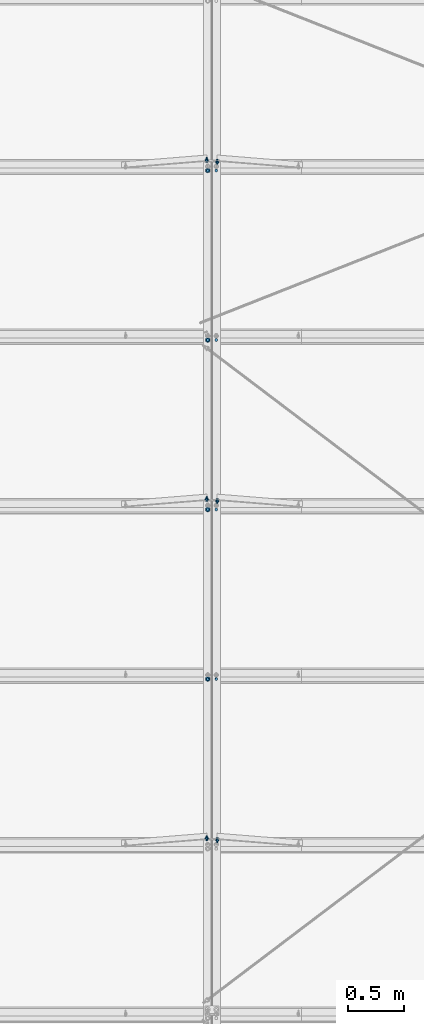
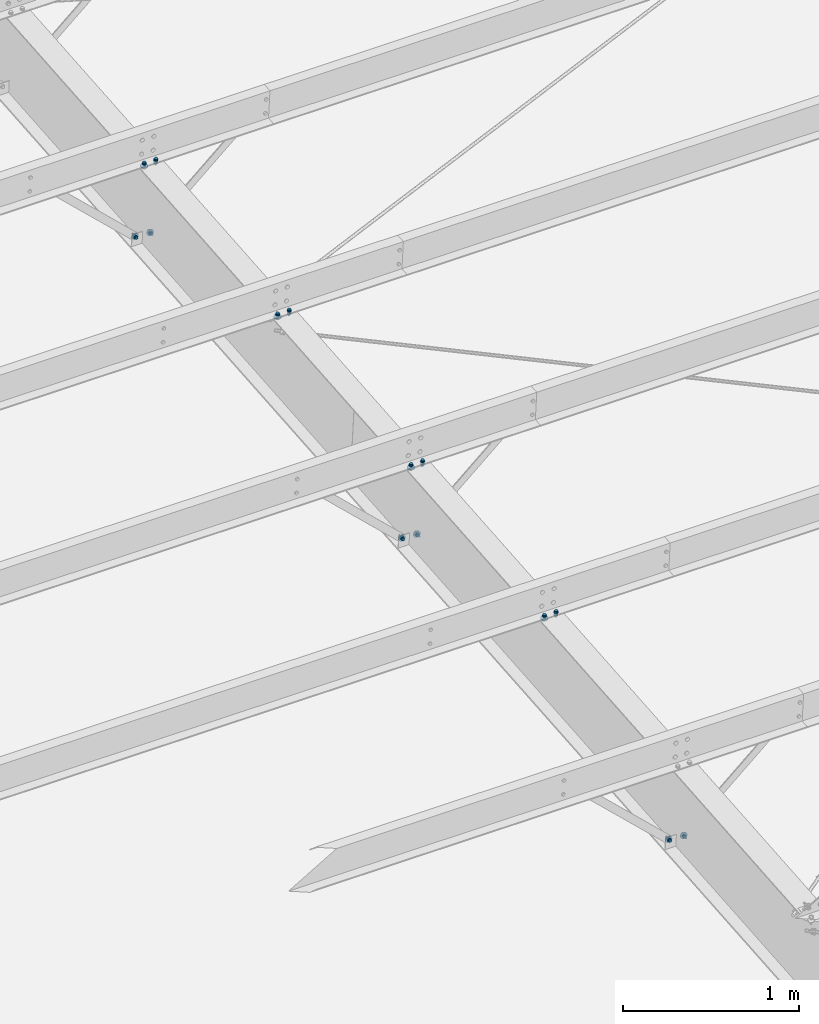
# One storey, part 141 of 185: 20 mechanical fasteners, 11 elements without a shape of their own.
"""IFC2X3 building model written with IfcOpenShell, lengths in millimetres."""

from ifc_helpers import new_model, si_unit, frame, origin_with_axes, origin_2d_with_axis, place, context, subcontext, project, spatial, polyline, circle, outline, extrude, source, transform, mapped, material, type_object, element, aggregate, save


model = new_model("IFC2X3")

# Units and contexts
model_context = context("Model", 3, precision=1e-05, world=origin_with_axes())
body_context = subcontext(model_context, "Body", "Model", "MODEL_VIEW")
ifc_project = project(units=[si_unit("LENGTHUNIT", "METRE", prefix="MILLI"), si_unit("AREAUNIT", "SQUARE_METRE"), si_unit("VOLUMEUNIT", "CUBIC_METRE"), si_unit("MASSUNIT", "GRAM", prefix="KILO"), si_unit("TIMEUNIT", "SECOND"), si_unit("PLANEANGLEUNIT", "RADIAN"), si_unit("SOLIDANGLEUNIT", "STERADIAN"), si_unit("THERMODYNAMICTEMPERATUREUNIT", "DEGREE_CELSIUS"), si_unit("LUMINOUSINTENSITYUNIT", "LUMEN")], contexts=[model_context])

# Site, building, storey
site_placement = place(None, origin_with_axes())
site = spatial("IfcSite", under=ifc_project, at=site_placement, Name="Undefined", CompositionType="ELEMENT")
building_placement = place(site_placement, origin_with_axes())
building = spatial("IfcBuilding", under=site, at=building_placement, Name="Undefined", CompositionType="ELEMENT")
storey_placement = place(building_placement, origin_with_axes())
storey = spatial("IfcBuildingStorey", under=building, at=storey_placement, Name="Undefined", CompositionType="ELEMENT", Elevation=0.0)

# Assembly, mechanical fastener
assembly_1_placement = place(storey_placement, origin_with_axes())
assembly_1 = element("IfcElementAssembly", 1, at=assembly_1_placement, inside=storey, Name="Steel Assembly", AssemblyPlace="NOTDEFINED", PredefinedType="RIGID_FRAME")
ifc_material_1 = material(Name="Undefined")
discrete_accessory_type = type_object("IfcDiscreteAccessoryType", Name="Bolt assembly")
shared_shape_1 = source(origin_with_axes(), body_context, "Body", "SweptSolid", [
    extrude(circle(Radius=7.14374971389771, at=origin_2d_with_axis()), frame((0.0, -1.59000001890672, 0.0), z_axis=(0.0, 1.0, 0.0), x_axis=(1.0, 0.0, 0.0)), (0.0, 0.0, 1.0), 1.7),
    extrude(outline(polyline([(10.9985221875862, 0.0), (5.4992610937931, 9.52499961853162), (-5.4992610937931, 9.52499961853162), (-10.9985221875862, 0.0), (-5.4992610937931, -9.52499961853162), (5.4992610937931, -9.52499961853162), (10.9985221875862, 0.0)])), frame((0.0, -15.0837496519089, 0.0), z_axis=(0.0, 1.0, 0.0), x_axis=(1.0, 0.0, 0.0)), (0.0, 0.0, 1.0), 9.5),
    extrude(circle(Radius=6.34999990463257, at=origin_2d_with_axis()), frame((0.0, -5.5587500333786, 0.0), z_axis=(0.0, 1.0, 0.0), x_axis=(1.0, 0.0, 0.0)), (0.0, 0.0, 1.0), 38.1),
    extrude(circle(Radius=13.4937496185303, at=origin_2d_with_axis()), frame((0.0, -5.5587500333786, 0.0), z_axis=(0.0, 1.0, 0.0), x_axis=(1.0, 0.0, 0.0)), (0.0, 0.0, 1.0), 4.0),
    extrude(circle(Radius=22.2250003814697, at=origin_2d_with_axis()), frame((0.0, 0.0, 0.0), z_axis=(0.0, 1.0, 0.0), x_axis=(1.0, 0.0, 0.0)), (0.0, 0.0, 1.0), 7.9),
    extrude(outline(polyline([(12.8316099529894, 0.0), (6.4158049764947, 11.1125001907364), (-6.4158049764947, 11.1125001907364), (-12.8316099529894, 0.0), (-6.4158049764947, -11.1125001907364), (6.4158049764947, -11.1125001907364), (12.8316099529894, 0.0)])), frame((0.0, 7.93750000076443, 0.0), z_axis=(0.0, 1.0, 0.0), x_axis=(1.0, 0.0, 0.0)), (0.0, 0.0, 1.0), 12.3),
])
mechanical_fastener_1_placement = place(assembly_1_placement, frame((30145.8744956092, 8167.66653030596, 6014.27804869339), z_axis=(0.697745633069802, 0.0594892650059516, -0.713871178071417), x_axis=(0.716345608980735, -0.0579446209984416, 0.695335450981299)))
mechanical_fastener_1 = element("IfcMechanicalFastener", 2, at=mechanical_fastener_1_placement, type_object=discrete_accessory_type, material=ifc_material_1, Name="Bolt assembly", NominalDiameter=12.6999998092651, NominalLength=38.0999984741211, context=body_context, shape_type="MappedRepresentation", body=[
    mapped(shared_shape_1, transform((0.0, 0.0, 0.0))),
])
aggregate(assembly_1, [mechanical_fastener_1])

assembly_2_placement = place(storey_placement, origin_with_axes())
assembly_2 = element("IfcElementAssembly", 3, at=assembly_2_placement, inside=storey, Name="Steel Assembly", AssemblyPlace="NOTDEFINED", PredefinedType="RIGID_FRAME")
mechanical_fastener_2_placement = place(assembly_2_placement, frame((30145.8744956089, 11205.1380014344, 6267.4006712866), z_axis=(0.697745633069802, 0.0594892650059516, -0.713871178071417), x_axis=(0.716345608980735, -0.0579446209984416, 0.695335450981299)))
mechanical_fastener_2 = element("IfcMechanicalFastener", 4, at=mechanical_fastener_2_placement, type_object=discrete_accessory_type, material=ifc_material_1, Name="Bolt assembly", NominalDiameter=12.6999998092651, NominalLength=38.0999984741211, context=body_context, shape_type="MappedRepresentation", body=[
    mapped(shared_shape_1, transform((0.0, 0.0, 0.0))),
])
aggregate(assembly_2, [mechanical_fastener_2])

assembly_3_placement = place(storey_placement, origin_with_axes())
assembly_3 = element("IfcElementAssembly", 5, at=assembly_3_placement, inside=storey, Name="Steel Assembly", AssemblyPlace="NOTDEFINED", PredefinedType="RIGID_FRAME")
mechanical_fastener_3_placement = place(assembly_3_placement, frame((30145.8744956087, 14242.609472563, 6520.52329387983), z_axis=(0.697745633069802, 0.0594892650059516, -0.713871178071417), x_axis=(0.716345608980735, -0.0579446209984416, 0.695335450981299)))
mechanical_fastener_3 = element("IfcMechanicalFastener", 6, at=mechanical_fastener_3_placement, type_object=discrete_accessory_type, material=ifc_material_1, Name="Bolt assembly", NominalDiameter=12.6999998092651, NominalLength=38.0999984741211, context=body_context, shape_type="MappedRepresentation", body=[
    mapped(shared_shape_1, transform((0.0, 0.0, 0.0))),
])
aggregate(assembly_3, [mechanical_fastener_3])

assembly_4_placement = place(storey_placement, origin_with_axes())
assembly_4 = element("IfcElementAssembly", 7, at=assembly_4_placement, inside=storey, Name="Steel Assembly", AssemblyPlace="NOTDEFINED", PredefinedType="RIGID_FRAME")
shared_shape_2 = source(origin_with_axes(), body_context, "Body", "SweptSolid", [
    extrude(circle(Radius=7.14374971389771, at=origin_2d_with_axis()), frame((0.0, 0.0, 0.0), z_axis=(0.0, 1.0, 0.0), x_axis=(1.0, 0.0, 0.0)), (0.0, 0.0, 1.0), 1.7),
    extrude(outline(polyline([(10.9985221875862, 0.0), (5.4992610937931, 9.52499961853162), (-5.4992610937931, 9.52499961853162), (-10.9985221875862, 0.0), (-5.4992610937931, -9.52499961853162), (5.4992610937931, -9.52499961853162), (10.9985221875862, 0.0)])), frame((0.0, -13.4937496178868, 0.0), z_axis=(0.0, 1.0, 0.0), x_axis=(1.0, 0.0, 0.0)), (0.0, 0.0, 1.0), 9.5),
    extrude(circle(Radius=6.34999990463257, at=origin_2d_with_axis()), frame((0.0, -3.96874999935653, 0.0), z_axis=(0.0, 1.0, 0.0), x_axis=(1.0, 0.0, 0.0)), (0.0, 0.0, 1.0), 38.1),
    extrude(circle(Radius=13.4937496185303, at=origin_2d_with_axis()), frame((0.0, -3.96874999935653, 0.0), z_axis=(0.0, 1.0, 0.0), x_axis=(1.0, 0.0, 0.0)), (0.0, 0.0, 1.0), 4.0),
    extrude(circle(Radius=22.2250003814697, at=origin_2d_with_axis()), frame((0.0, 1.5900000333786, 0.0), z_axis=(0.0, 1.0, 0.0), x_axis=(1.0, 0.0, 0.0)), (0.0, 0.0, 1.0), 7.9),
    extrude(outline(polyline([(12.8316099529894, 0.0), (6.4158049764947, 11.1125001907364), (-6.4158049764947, 11.1125001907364), (-12.8316099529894, 0.0), (-6.4158049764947, -11.1125001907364), (6.4158049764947, -11.1125001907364), (12.8316099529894, 0.0)])), frame((0.0, 9.5275000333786, 0.0), z_axis=(0.0, 1.0, 0.0), x_axis=(1.0, 0.0, 0.0)), (0.0, 0.0, 1.0), 12.3),
])
mechanical_fastener_4_placement = place(assembly_4_placement, frame((30052.1255043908, 8167.66653030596, 6014.27804869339), z_axis=(-0.697745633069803, 0.0594892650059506, -0.713871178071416), x_axis=(-0.716345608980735, -0.0579446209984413, 0.6953354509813)))
mechanical_fastener_4 = element("IfcMechanicalFastener", 8, at=mechanical_fastener_4_placement, type_object=discrete_accessory_type, material=ifc_material_1, Name="Bolt assembly", NominalDiameter=12.6999998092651, NominalLength=38.0999984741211, context=body_context, shape_type="MappedRepresentation", body=[
    mapped(shared_shape_2, transform((0.0, 0.0, 0.0))),
])
aggregate(assembly_4, [mechanical_fastener_4])

assembly_5_placement = place(storey_placement, origin_with_axes())
assembly_5 = element("IfcElementAssembly", 9, at=assembly_5_placement, inside=storey, Name="Steel Assembly", AssemblyPlace="NOTDEFINED", PredefinedType="RIGID_FRAME")
mechanical_fastener_5_placement = place(assembly_5_placement, frame((30052.1255043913, 14242.609472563, 6520.52329387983), z_axis=(-0.697745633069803, 0.0594892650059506, -0.713871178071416), x_axis=(-0.716345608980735, -0.0579446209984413, 0.6953354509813)))
mechanical_fastener_5 = element("IfcMechanicalFastener", 10, at=mechanical_fastener_5_placement, type_object=discrete_accessory_type, material=ifc_material_1, Name="Bolt assembly", NominalDiameter=12.6999998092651, NominalLength=38.0999984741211, context=body_context, shape_type="MappedRepresentation", body=[
    mapped(shared_shape_2, transform((0.0, 0.0, 0.0))),
])
aggregate(assembly_5, [mechanical_fastener_5])

assembly_6_placement = place(storey_placement, origin_with_axes())
assembly_6 = element("IfcElementAssembly", 11, at=assembly_6_placement, inside=storey, Name="Steel Assembly", AssemblyPlace="NOTDEFINED", PredefinedType="RIGID_FRAME")
mechanical_fastener_6_placement = place(assembly_6_placement, frame((30052.1255043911, 11205.1380014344, 6267.4006712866), z_axis=(-0.697745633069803, 0.0594892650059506, -0.713871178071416), x_axis=(-0.716345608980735, -0.0579446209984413, 0.6953354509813)))
mechanical_fastener_6 = element("IfcMechanicalFastener", 12, at=mechanical_fastener_6_placement, type_object=discrete_accessory_type, material=ifc_material_1, Name="Bolt assembly", NominalDiameter=12.6999998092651, NominalLength=38.0999984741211, context=body_context, shape_type="MappedRepresentation", body=[
    mapped(shared_shape_2, transform((0.0, 0.0, 0.0))),
])
aggregate(assembly_6, [mechanical_fastener_6])

# Assembly, mechanical fasteners
assembly_7_placement = place(storey_placement, origin_with_axes())
assembly_7 = element("IfcElementAssembly", 13, at=assembly_7_placement, inside=storey, Name="Steel Assembly", AssemblyPlace="NOTDEFINED", PredefinedType="RIGID_FRAME")
ifc_material_2 = material(Name="7990")
shared_shape_3 = source(origin_with_axes(), body_context, "Body", "SweptSolid", [
    extrude(circle(Radius=7.14374971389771, at=origin_2d_with_axis()), frame((0.0, -3.41600000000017, 0.0), z_axis=(0.0, 1.0, 0.0), x_axis=(1.0, 0.0, 0.0)), (0.0, 0.0, 1.0), 3.5),
    extrude(circle(Radius=11.4299998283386, at=origin_2d_with_axis()), frame((0.0, 0.0, 0.0), z_axis=(0.0, 1.0, 0.0), x_axis=(1.0, 0.0, 0.0)), (0.0, 0.0, 1.0), 4.2),
    extrude(outline(polyline([(12.171698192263, 0.0), (6.08584909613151, 10.5409998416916), (-6.08584909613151, 10.5409998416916), (-12.171698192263, 0.0), (-6.08584909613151, -10.5409998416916), (6.08584909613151, -10.5409998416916), (12.171698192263, 0.0)])), frame((0.0, 4.1909999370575, 0.0), z_axis=(0.0, 1.0, 0.0), x_axis=(1.0, 0.0, 0.0)), (0.0, 0.0, 1.0), 8.4),
])
mechanical_fastener_7_placement = place(assembly_7_placement, frame((30052.84185, 8167.72447492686, 6013.58271324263), z_axis=(0.921635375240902, 0.0322263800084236, -0.386716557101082), x_axis=(-0.388056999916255, 0.0765376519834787, -0.9184518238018)))
mechanical_fastener_7 = element("IfcMechanicalFastener", 14, at=mechanical_fastener_7_placement, type_object=discrete_accessory_type, material=ifc_material_2, Name="Bolt assembly", NominalDiameter=12.6999998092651, NominalLength=38.0999984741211, context=body_context, shape_type="MappedRepresentation", body=[
    mapped(shared_shape_3, transform((0.0, 0.0, 0.0))),
])
mechanical_fastener_8_placement = place(assembly_7_placement, frame((30052.84185, 11205.1959460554, 6266.70533583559), z_axis=(0.921635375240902, 0.0322263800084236, -0.386716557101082), x_axis=(-0.388056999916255, 0.0765376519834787, -0.9184518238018)))
mechanical_fastener_8 = element("IfcMechanicalFastener", 15, at=mechanical_fastener_8_placement, type_object=discrete_accessory_type, material=ifc_material_2, Name="Bolt assembly", NominalDiameter=12.6999998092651, NominalLength=38.0999984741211, context=body_context, shape_type="MappedRepresentation", body=[
    mapped(shared_shape_3, transform((0.0, 0.0, 0.0))),
])
mechanical_fastener_9_placement = place(assembly_7_placement, frame((30052.84185, 14242.667417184, 6519.82795842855), z_axis=(0.921635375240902, 0.0322263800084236, -0.386716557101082), x_axis=(-0.388056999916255, 0.0765376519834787, -0.9184518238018)))
mechanical_fastener_9 = element("IfcMechanicalFastener", 16, at=mechanical_fastener_9_placement, type_object=discrete_accessory_type, material=ifc_material_2, Name="Bolt assembly", NominalDiameter=12.6999998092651, NominalLength=38.0999984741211, context=body_context, shape_type="MappedRepresentation", body=[
    mapped(shared_shape_3, transform((0.0, 0.0, 0.0))),
])
shared_shape_4 = source(origin_with_axes(), body_context, "Body", "SweptSolid", [
    extrude(circle(Radius=7.14374971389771, at=origin_2d_with_axis()), frame((0.0, 0.0, 0.0), z_axis=(0.0, 1.0, 0.0), x_axis=(1.0, 0.0, 0.0)), (0.0, 0.0, 1.0), 3.5),
    extrude(circle(Radius=11.4299998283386, at=origin_2d_with_axis()), frame((0.0, 3.41600000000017, 0.0), z_axis=(0.0, 1.0, 0.0), x_axis=(1.0, 0.0, 0.0)), (0.0, 0.0, 1.0), 4.2),
    extrude(outline(polyline([(12.171698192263, 0.0), (6.08584909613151, 10.5409998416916), (-6.08584909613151, 10.5409998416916), (-12.171698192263, 0.0), (-6.08584909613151, -10.5409998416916), (6.08584909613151, -10.5409998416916), (12.171698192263, 0.0)])), frame((0.0, 7.60699993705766, 0.0), z_axis=(0.0, 1.0, 0.0), x_axis=(1.0, 0.0, 0.0)), (0.0, 0.0, 1.0), 8.4),
])
mechanical_fastener_10_placement = place(assembly_7_placement, frame((30145.15815, 8167.72447492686, 6013.58271324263), z_axis=(-0.921635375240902, 0.0322263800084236, -0.386716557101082), x_axis=(0.388056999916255, 0.0765376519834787, -0.9184518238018)))
mechanical_fastener_10 = element("IfcMechanicalFastener", 17, at=mechanical_fastener_10_placement, type_object=discrete_accessory_type, material=ifc_material_2, Name="Bolt assembly", NominalDiameter=12.6999998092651, NominalLength=38.0999984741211, context=body_context, shape_type="MappedRepresentation", body=[
    mapped(shared_shape_4, transform((0.0, 0.0, 0.0))),
])
mechanical_fastener_11_placement = place(assembly_7_placement, frame((30145.15815, 11205.1959460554, 6266.70533583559), z_axis=(-0.921635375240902, 0.0322263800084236, -0.386716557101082), x_axis=(0.388056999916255, 0.0765376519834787, -0.9184518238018)))
mechanical_fastener_11 = element("IfcMechanicalFastener", 18, at=mechanical_fastener_11_placement, type_object=discrete_accessory_type, material=ifc_material_2, Name="Bolt assembly", NominalDiameter=12.6999998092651, NominalLength=38.0999984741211, context=body_context, shape_type="MappedRepresentation", body=[
    mapped(shared_shape_4, transform((0.0, 0.0, 0.0))),
])
mechanical_fastener_12_placement = place(assembly_7_placement, frame((30145.15815, 14242.667417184, 6519.82795842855), z_axis=(-0.921635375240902, 0.0322263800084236, -0.386716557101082), x_axis=(0.388056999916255, 0.0765376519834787, -0.9184518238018)))
mechanical_fastener_12 = element("IfcMechanicalFastener", 19, at=mechanical_fastener_12_placement, type_object=discrete_accessory_type, material=ifc_material_2, Name="Bolt assembly", NominalDiameter=12.6999998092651, NominalLength=38.0999984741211, context=body_context, shape_type="MappedRepresentation", body=[
    mapped(shared_shape_4, transform((0.0, 0.0, 0.0))),
])
aggregate(assembly_7, [mechanical_fastener_10, mechanical_fastener_7, mechanical_fastener_11, mechanical_fastener_8, mechanical_fastener_12, mechanical_fastener_9])

# Assembly, mechanical fastener
assembly_8_placement = place(storey_placement, origin_with_axes())
assembly_8 = element("IfcElementAssembly", 20, at=assembly_8_placement, inside=storey, Name="Steel Assembly", AssemblyPlace="NOTDEFINED", PredefinedType="RIGID_FRAME")
shared_shape_5 = source(origin_with_axes(), body_context, "Body", "SweptSolid", [
    extrude(circle(Radius=7.14374971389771, at=origin_2d_with_axis()), frame((0.0, -0.0238014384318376, 0.0), z_axis=(0.0, 1.0, 0.0), x_axis=(1.0, 0.0, 0.0)), (0.0, 0.0, 1.0), 8.0),
    extrude(circle(Radius=7.14374971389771, at=origin_2d_with_axis()), frame((0.0, -3.08000006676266, 0.0), z_axis=(0.0, 1.0, 0.0), x_axis=(1.0, 0.0, 0.0)), (0.0, 0.0, 1.0), 3.2),
    extrude(circle(Radius=7.14374971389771, at=origin_2d_with_axis()), frame((0.0, -3.08000006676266, 0.0), z_axis=(0.0, 1.0, 0.0), x_axis=(1.0, 0.0, 0.0)), (0.0, 0.0, 1.0), 3.2),
    extrude(outline(polyline([(10.9985221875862, 0.0), (5.4992610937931, 9.52499961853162), (-5.4992610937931, 9.52499961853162), (-10.9985221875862, 0.0), (-5.4992610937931, -9.52499961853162), (5.4992610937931, -9.52499961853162), (10.9985221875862, 0.0)])), frame((0.0, -16.6737496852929, 0.0), z_axis=(0.0, 1.0, 0.0), x_axis=(1.0, 0.0, 0.0)), (0.0, 0.0, 1.0), 9.5),
    extrude(circle(Radius=6.34999990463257, at=origin_2d_with_axis()), frame((0.0, -7.14875006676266, 0.0), z_axis=(0.0, 1.0, 0.0), x_axis=(1.0, 0.0, 0.0)), (0.0, 0.0, 1.0), 38.1),
    extrude(circle(Radius=13.4937496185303, at=origin_2d_with_axis()), frame((0.0, -7.14875006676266, 0.0), z_axis=(0.0, 1.0, 0.0), x_axis=(1.0, 0.0, 0.0)), (0.0, 0.0, 1.0), 4.0),
    extrude(circle(Radius=22.2250003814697, at=origin_2d_with_axis()), frame((0.0, 7.95019856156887, 0.0), z_axis=(0.0, 1.0, 0.0), x_axis=(1.0, 0.0, 0.0)), (0.0, 0.0, 1.0), 7.9),
    extrude(outline(polyline([(12.8316099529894, 0.0), (6.4158049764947, 11.1125001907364), (-6.4158049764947, 11.1125001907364), (-12.8316099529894, 0.0), (-6.4158049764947, -11.1125001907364), (6.4158049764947, -11.1125001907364), (12.8316099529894, 0.0)])), frame((0.0, 15.8876985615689, 0.0), z_axis=(0.0, 1.0, 0.0), x_axis=(1.0, 0.0, 0.0)), (0.0, 0.0, 1.0), 12.3),
])
mechanical_fastener_13_placement = place(assembly_8_placement, frame((30060.9, 9602.21678319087, 6692.28039869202), z_axis=(1.0, 0.0, 0.0), x_axis=(0.0, -0.996545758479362, -0.0830454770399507)))
mechanical_fastener_13 = element("IfcMechanicalFastener", 21, at=mechanical_fastener_13_placement, type_object=discrete_accessory_type, material=ifc_material_1, Name="Bolt assembly", NominalDiameter=12.6999998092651, NominalLength=38.0999984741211, context=body_context, shape_type="MappedRepresentation", body=[
    mapped(shared_shape_5, transform((0.0, 0.0, 0.0))),
])

assembly_9_placement = place(storey_placement, origin_with_axes())
assembly_9 = element("IfcElementAssembly", 22, at=assembly_9_placement, inside=storey, Name="Steel Assembly", AssemblyPlace="NOTDEFINED", PredefinedType="RIGID_FRAME")
mechanical_fastener_14_placement = place(assembly_9_placement, frame((30060.9, 11120.9525187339, 6818.84171024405), z_axis=(1.0, 0.0, 0.0), x_axis=(0.0, -0.996545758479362, -0.0830454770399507)))
mechanical_fastener_14 = element("IfcMechanicalFastener", 23, at=mechanical_fastener_14_placement, type_object=discrete_accessory_type, material=ifc_material_1, Name="Bolt assembly", NominalDiameter=12.6999998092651, NominalLength=38.0999984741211, context=body_context, shape_type="MappedRepresentation", body=[
    mapped(shared_shape_5, transform((0.0, 0.0, 0.0))),
])

assembly_10_placement = place(storey_placement, origin_with_axes())
assembly_10 = element("IfcElementAssembly", 24, at=assembly_10_placement, inside=storey, Name="Steel Assembly", AssemblyPlace="NOTDEFINED", PredefinedType="RIGID_FRAME")
mechanical_fastener_15_placement = place(assembly_10_placement, frame((30060.9, 12639.6882542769, 6945.40302179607), z_axis=(1.0, 0.0, 0.0), x_axis=(0.0, -0.996545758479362, -0.0830454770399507)))
mechanical_fastener_15 = element("IfcMechanicalFastener", 25, at=mechanical_fastener_15_placement, type_object=discrete_accessory_type, material=ifc_material_1, Name="Bolt assembly", NominalDiameter=12.6999998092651, NominalLength=38.0999984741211, context=body_context, shape_type="MappedRepresentation", body=[
    mapped(shared_shape_5, transform((0.0, 0.0, 0.0))),
])

assembly_11_placement = place(storey_placement, origin_with_axes())
assembly_11 = element("IfcElementAssembly", 26, at=assembly_11_placement, inside=storey, Name="Steel Assembly", AssemblyPlace="NOTDEFINED", PredefinedType="RIGID_FRAME")
mechanical_fastener_16_placement = place(assembly_11_placement, frame((30060.9, 14158.4239898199, 7071.96433334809), z_axis=(1.0, 0.0, 0.0), x_axis=(0.0, -0.996545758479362, -0.0830454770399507)))
mechanical_fastener_16 = element("IfcMechanicalFastener", 27, at=mechanical_fastener_16_placement, type_object=discrete_accessory_type, material=ifc_material_1, Name="Bolt assembly", NominalDiameter=12.6999998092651, NominalLength=38.0999984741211, context=body_context, shape_type="MappedRepresentation", body=[
    mapped(shared_shape_5, transform((0.0, 0.0, 0.0))),
])

# Mechanical fastener
shared_shape_6 = source(origin_with_axes(), body_context, "Body", "SweptSolid", [
    extrude(circle(Radius=7.14374971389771, at=origin_2d_with_axis()), frame((0.0, -0.0238014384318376, 0.0), z_axis=(0.0, 1.0, 0.0), x_axis=(1.0, 0.0, 0.0)), (0.0, 0.0, 1.0), 8.0),
    extrude(circle(Radius=7.14374971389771, at=origin_2d_with_axis()), frame((0.0, -3.08000006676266, 0.0), z_axis=(0.0, 1.0, 0.0), x_axis=(1.0, 0.0, 0.0)), (0.0, 0.0, 1.0), 3.2),
    extrude(circle(Radius=7.14374971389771, at=origin_2d_with_axis()), frame((0.0, -3.08000006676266, 0.0), z_axis=(0.0, 1.0, 0.0), x_axis=(1.0, 0.0, 0.0)), (0.0, 0.0, 1.0), 3.2),
    extrude(outline(polyline([(10.9985221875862, 0.0), (5.4992610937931, 9.52499961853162), (-5.4992610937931, 9.52499961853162), (-10.9985221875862, 0.0), (-5.4992610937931, -9.52499961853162), (5.4992610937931, -9.52499961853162), (10.9985221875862, 0.0)])), frame((0.0, -16.6737496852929, 0.0), z_axis=(0.0, 1.0, 0.0), x_axis=(1.0, 0.0, 0.0)), (0.0, 0.0, 1.0), 9.5),
    extrude(circle(Radius=6.34999990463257, at=origin_2d_with_axis()), frame((0.0, -7.14875006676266, 0.0), z_axis=(0.0, 1.0, 0.0), x_axis=(1.0, 0.0, 0.0)), (0.0, 0.0, 1.0), 38.1),
    extrude(circle(Radius=13.4937496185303, at=origin_2d_with_axis()), frame((0.0, -7.14875006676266, 0.0), z_axis=(0.0, 1.0, 0.0), x_axis=(1.0, 0.0, 0.0)), (0.0, 0.0, 1.0), 4.0),
    extrude(outline(polyline([(12.8316099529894, 0.0), (6.4158049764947, 11.1125001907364), (-6.4158049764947, 11.1125001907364), (-12.8316099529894, 0.0), (-6.4158049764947, -11.1125001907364), (6.4158049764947, -11.1125001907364), (12.8316099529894, 0.0)])), frame((0.0, 7.95019856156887, 0.0), z_axis=(0.0, 1.0, 0.0), x_axis=(1.0, 0.0, 0.0)), (0.0, 0.0, 1.0), 12.3),
])
mechanical_fastener_17_placement = place(assembly_8_placement, frame((30137.1, 9602.21678319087, 6692.28039869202), z_axis=(1.0, 0.0, 0.0), x_axis=(0.0, -0.996545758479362, -0.0830454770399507)))
mechanical_fastener_17 = element("IfcMechanicalFastener", 28, at=mechanical_fastener_17_placement, type_object=discrete_accessory_type, material=ifc_material_1, Name="Bolt assembly", NominalDiameter=12.6999998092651, NominalLength=38.0999984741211, context=body_context, shape_type="MappedRepresentation", body=[
    mapped(shared_shape_6, transform((0.0, 0.0, 0.0))),
])

aggregate(assembly_8, [mechanical_fastener_13, mechanical_fastener_17])

mechanical_fastener_18_placement = place(assembly_9_placement, frame((30137.1, 11120.9525187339, 6818.84171024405), z_axis=(1.0, 0.0, 0.0), x_axis=(0.0, -0.996545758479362, -0.0830454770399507)))
mechanical_fastener_18 = element("IfcMechanicalFastener", 29, at=mechanical_fastener_18_placement, type_object=discrete_accessory_type, material=ifc_material_1, Name="Bolt assembly", NominalDiameter=12.6999998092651, NominalLength=38.0999984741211, context=body_context, shape_type="MappedRepresentation", body=[
    mapped(shared_shape_6, transform((0.0, 0.0, 0.0))),
])

aggregate(assembly_9, [mechanical_fastener_14, mechanical_fastener_18])

mechanical_fastener_19_placement = place(assembly_10_placement, frame((30137.1, 12639.6882542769, 6945.40302179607), z_axis=(1.0, 0.0, 0.0), x_axis=(0.0, -0.996545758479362, -0.0830454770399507)))
mechanical_fastener_19 = element("IfcMechanicalFastener", 30, at=mechanical_fastener_19_placement, type_object=discrete_accessory_type, material=ifc_material_1, Name="Bolt assembly", NominalDiameter=12.6999998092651, NominalLength=38.0999984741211, context=body_context, shape_type="MappedRepresentation", body=[
    mapped(shared_shape_6, transform((0.0, 0.0, 0.0))),
])

aggregate(assembly_10, [mechanical_fastener_15, mechanical_fastener_19])

mechanical_fastener_20_placement = place(assembly_11_placement, frame((30137.1, 14158.4239898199, 7071.96433334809), z_axis=(1.0, 0.0, 0.0), x_axis=(0.0, -0.996545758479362, -0.0830454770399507)))
mechanical_fastener_20 = element("IfcMechanicalFastener", 31, at=mechanical_fastener_20_placement, type_object=discrete_accessory_type, material=ifc_material_1, Name="Bolt assembly", NominalDiameter=12.6999998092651, NominalLength=38.0999984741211, context=body_context, shape_type="MappedRepresentation", body=[
    mapped(shared_shape_6, transform((0.0, 0.0, 0.0))),
])

aggregate(assembly_11, [mechanical_fastener_16, mechanical_fastener_20])

save(model, "model.ifc")
